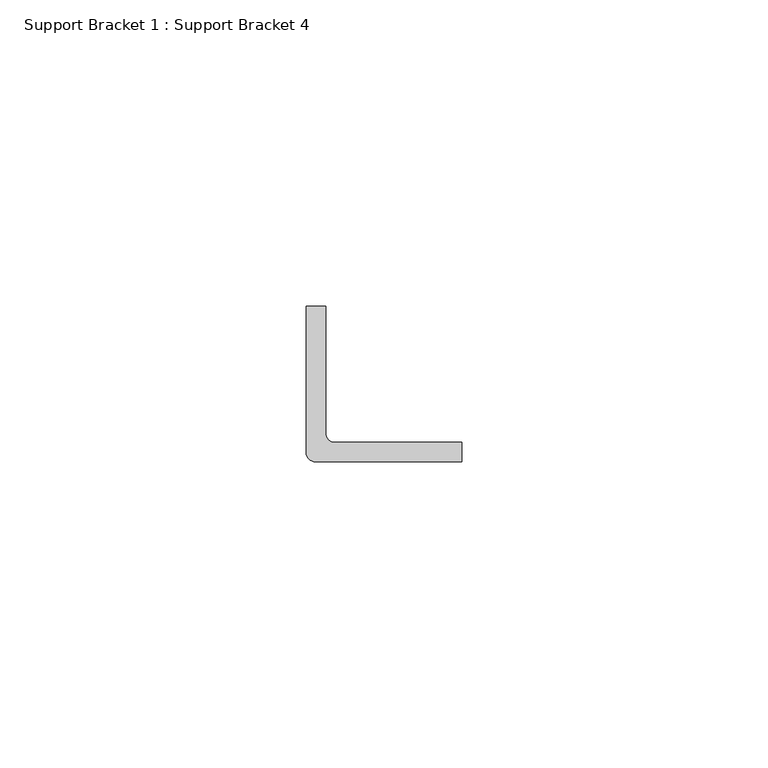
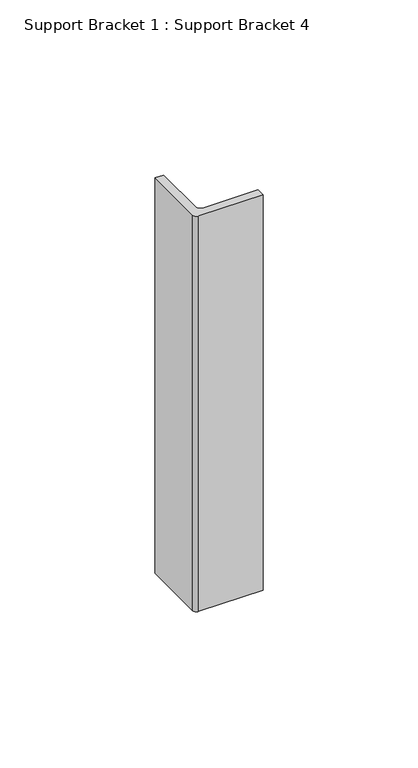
"""IFC4 building model written with IfcOpenShell, lengths in millimetres: proxy geometry, Support Bracket 1 : Support Bracket 4."""

from ifc_helpers import new_model, si_unit, point, frame, frame_2d, origin, place, context, project, spatial, polyline, circle_curve, trimmed, segment, composite_curve, outline, extrude, source, transform, mapped, element, save


def support_bracket_1_support_bracket_4_2f0baab2(model_context):
    return source(origin(), model_context, "Body", "SweptSolid", [
        extrude(outline(composite_curve([segment(polyline([(15417.2190248, 1025.8445535), (15417.2190248, 1049.7205535), (15420.3940248, 1049.7205535), (15420.3940248, 1029.0195535)]), True, "CONTINUOUS"), segment(trimmed(circle_curve(frame_2d((15421.9180248, 1029.0195535)), 1.524), [point((15420.3940248, 1029.0195535))], [point((15421.9180248, 1027.4955535))], True, "CARTESIAN"), True, "CONTINUOUS"), segment(polyline([(15421.9180248, 1027.4955535), (15442.6190248, 1027.4955535), (15442.6190248, 1024.3205535), (15418.7430248, 1024.3205535)]), True, "CONTINUOUS"), segment(trimmed(circle_curve(frame_2d((15418.7430248, 1025.8445535)), 1.524), [point((15418.7430248, 1024.3205535))], [point((15417.2190248, 1025.8445535))], False, "CARTESIAN"), True, "CONTINUOUS")], self_intersect=False)), frame((0.0, 0.0, 1014.7101563), z_axis=(0.0, 0.0, 1.0), x_axis=(1.0, 0.0, 0.0)), (0.0, 0.0, 1.0), 155.3941284),
    ])


if __name__ == "__main__":
    model = new_model("IFC4")
    model_context = context("Model", 3, world=origin())
    ifc_project = project(units=[si_unit("LENGTHUNIT", "METRE", prefix="MILLI")], contexts=[model_context])
    site = spatial("IfcSite", under=ifc_project)
    building = spatial("IfcBuilding", under=site)
    placement = place(None, origin())
    support_bracket_1_support_bracket_4_shape = support_bracket_1_support_bracket_4_2f0baab2(model_context)
    element("IfcBuildingElementProxy", 1, Name="Support Bracket 1 : Support Bracket 4", ObjectType="Support Bracket 1 : Support Bracket 4", at=placement, inside=building, context=model_context, shape_type="MappedRepresentation", body=[
        mapped(support_bracket_1_support_bracket_4_shape, transform((0.0, 0.0, 0.0), x_axis=(1.0, 0.0, 0.0), y_axis=(0.0, 1.0, 0.0), z_axis=(0.0, 0.0, 1.0))),
    ])
    save(model, "model.ifc")
